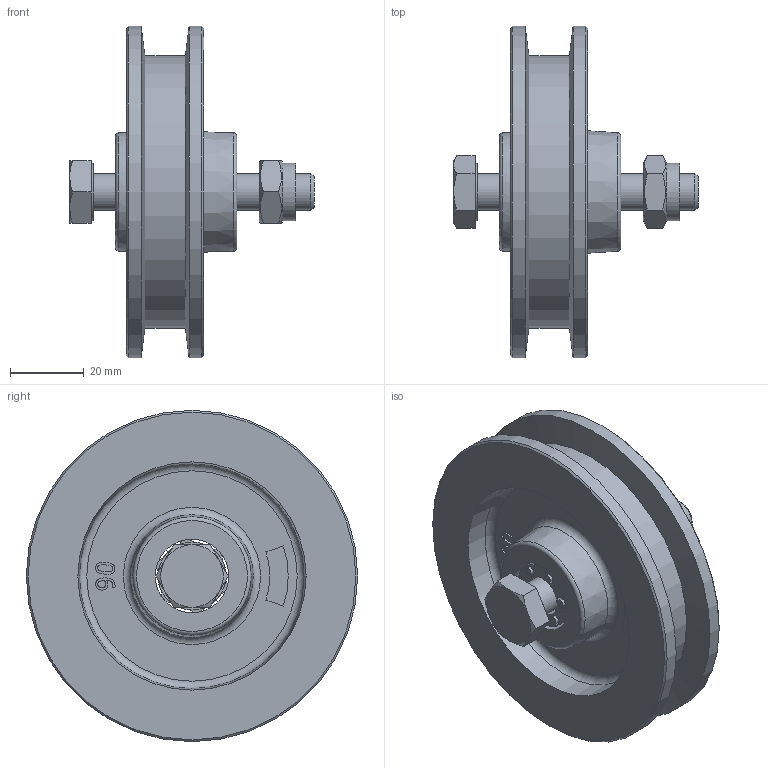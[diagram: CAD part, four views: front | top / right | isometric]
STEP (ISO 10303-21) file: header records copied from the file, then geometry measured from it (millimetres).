
FILE_DESCRIPTION(/* description */ ('Schiebetorrolle lose Ø90'),/* implementation_level */ '2;1');
FILE_NAME(/* name */ '010330439.iam.stp',/* time_stamp */ '2023-08-31T11:28:14+02:00',/* author */ ('O. Loukota'),/* organization */ (''),/* preprocessor_version */ 'ST-DEVELOPER v19.2',/* originating_system */ 'Autodesk Inventor 2023',/* authorisation */ '');
FILE_SCHEMA (('AUTOMOTIVE_DESIGN { 1 0 10303 214 3 1 1 }'));
Length unit declared in the file: millimetre
Products named in the file (8): 010330439; 337000109; DIN EN ISO 7040 - M10; DIN 931-1 - M10 x 60; 010330426_01; 337000303; 337000304; 337000305
Assembly tree (12 placements, depth 3):
  010330439
    337000109
    DIN EN ISO 7040 - M10
    DIN 931-1 - M10 x 60
    010330426_01
      337000303
      337000304
      337000305  x6
Bounding box: 66.4 x 90 x 90 mm (x, y, z)
Volume: 88796.4 mm3; surface area: 38367.7 mm2
Topology: 11 solids, 11 shells, 178 faces, 393 edges, 253 vertices
Faces by surface type: plane 66, cylinder 44, bspline 31, cone 31, torus 6
Full cylindrical faces by diameter (mm): 2 x12, 5 x6, 8.376 x1, 10 x1, 11.5 x2, 15.6 x2, 18.5 x2, 20 x1, 74 x1, 90 x2
Entity records: 5212 total; most frequent: CARTESIAN_POINT 1255, ORIENTED_EDGE 756, DIRECTION 751, EDGE_CURVE 378, AXIS2_PLACEMENT_3D 307, VERTEX_POINT 243, EDGE_LOOP 199, FACE_OUTER_BOUND 163
